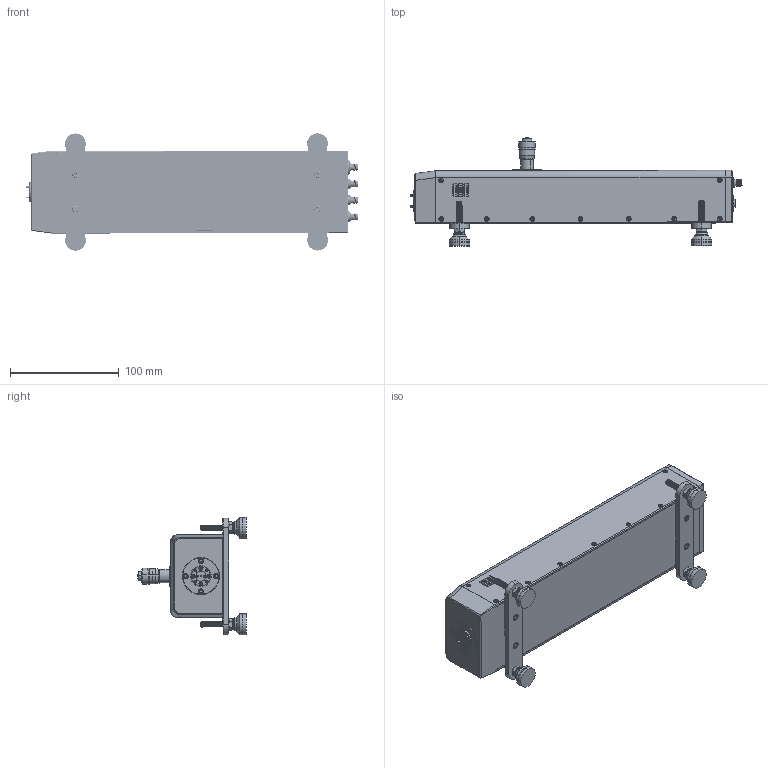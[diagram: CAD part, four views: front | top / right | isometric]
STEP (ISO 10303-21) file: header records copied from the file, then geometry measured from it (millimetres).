
FILE_DESCRIPTION (( 'STEP AP214' ), '1' );
FILE_NAME ('TO-S03-A-M, Defeatured.STEP', '2023-06-27T18:28:14', ( '' ), ( '' ), 'SwSTEP 2.0', 'SolidWorks 2021', '' );
FILE_SCHEMA (( 'AUTOMOTIVE_DESIGN' ));
Length unit declared in the file: inch
Products named in the file (1): TO-S03-A-M, Defeatured
Bounding box: 305.75 x 99.76 x 108.07 mm (x, y, z)
Volume: 1102479.9 mm3; surface area: 163448.6 mm2
Topology: 45 solids, 63 shells, 2525 faces, 6352 edges, 4039 vertices
Faces by surface type: cylinder 1003, plane 926, cone 501, bspline 71, sphere 16, torus 8
Entity records: 151992 total; most frequent: CARTESIAN_POINT 62855, ORIENTED_EDGE 12520, DIRECTION 11266, EDGE_CURVE 6260, AXIS2_PLACEMENT_3D 4338, VERTEX_POINT 4015, EDGE_LOOP 2783, VECTOR 2590
